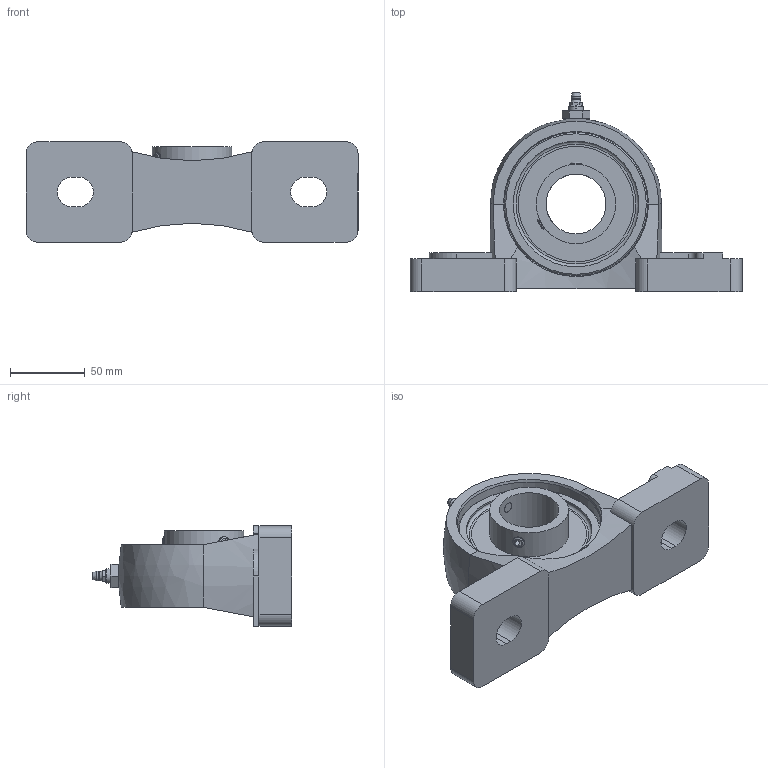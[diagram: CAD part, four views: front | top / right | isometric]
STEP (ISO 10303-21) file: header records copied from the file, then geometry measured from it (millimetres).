
FILE_DESCRIPTION((''),'2;1');
FILE_NAME('\\Ts-tgl068\J-Cad-D-BASE\00.3DCADデータ作成フォルダ\01.ピロー形\UCEP200\UCEP208.stp','2014-04-18T09:40:46',('btec_1106_2'),(''),'Autodesk Inventor 2012','Autodesk Inventor 2012','');
FILE_SCHEMA(('AUTOMOTIVE_DESIGN { 1 0 10303 214 1 1 1 1 }'));
Length unit declared in the file: millimetre
Products named in the file (7): UCEP200; EP209; AU110-1; EC208; GU1; シリーズUC [番手=208 ul]; M10X1
Assembly tree (6 placements, depth 2):
  UCEP200
    EP209
    AU110-1
    EC208
    GU1
    シリーズUC [番手=208 ul]
    M10X1
Bounding box: 222 x 133.59 x 67 mm (x, y, z)
Volume: 528122.5 mm3; surface area: 109116.1 mm2
Topology: 6 solids, 6 shells, 173 faces, 429 edges, 276 vertices
Faces by surface type: plane 91, cylinder 48, cone 21, torus 8, sphere 4, bspline 1
Full cylindrical faces by diameter (mm): 2 x1, 5 x1, 5.359 x1, 6.35 x1, 8 x2, 8.376 x2, 10 x1, 40 x1, 53 x2, 84 x2, 96 x2
Entity records: 5385 total; most frequent: CARTESIAN_POINT 1206, DIRECTION 848, ORIENTED_EDGE 756, EDGE_CURVE 378, AXIS2_PLACEMENT_3D 331, VERTEX_POINT 262, EDGE_LOOP 234, VECTOR 186
